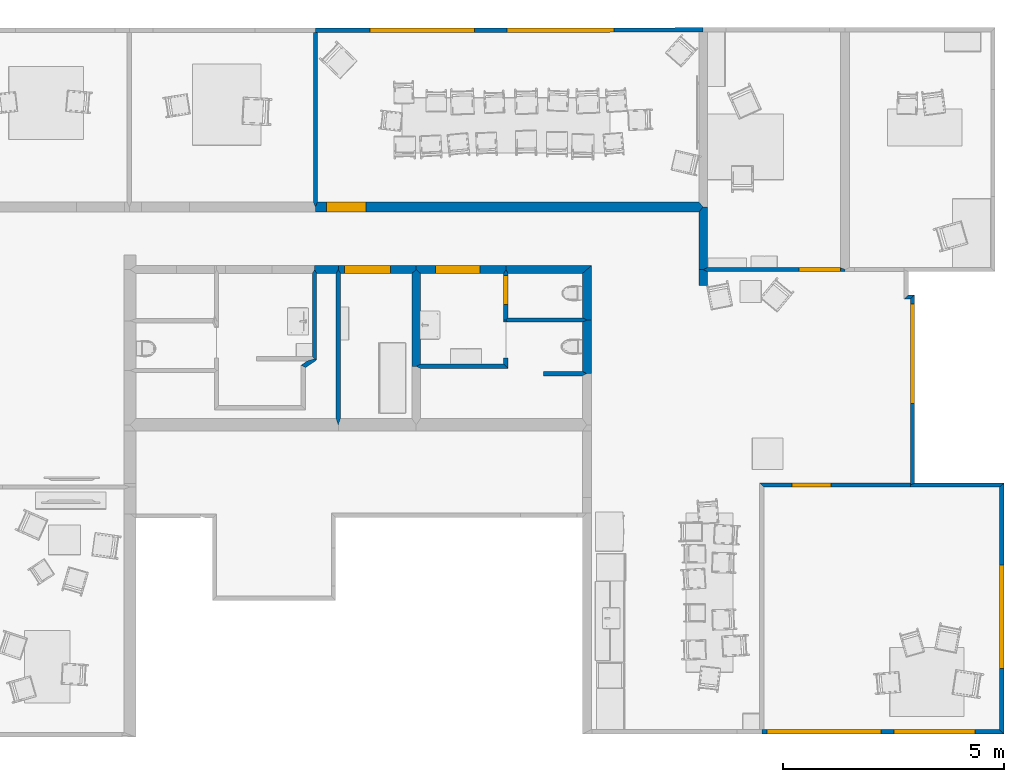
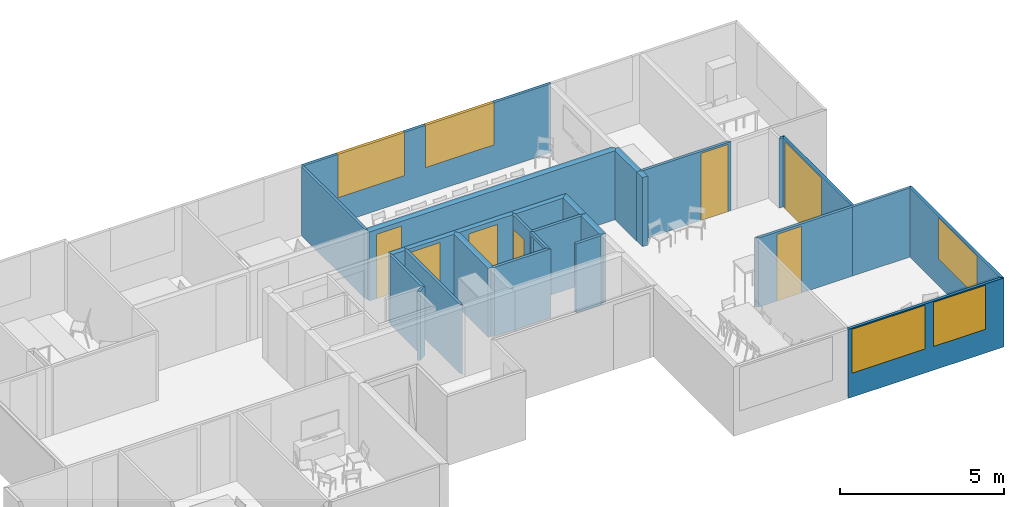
# One storey, part 4 of 26: 27 walls, 7 doors, 5 windows, 13 openings.
"""IFC2X3 building model written with IfcOpenShell, lengths in metres."""

from ifc_helpers import new_model, si_unit, direction, frame, origin_with_axes, place, context, subcontext, project, spatial, polyline, outline, extrude, type_object, element, fill, save


model = new_model("IFC2X3")

# Units and contexts
model_context = context("Model", 3, precision=1e-05, world=origin_with_axes(), true_north=direction((0.996, -0.093, 0.0)))
body_context = subcontext(model_context, "Body", "Model", "MODEL_VIEW")
ifc_project = project(units=[si_unit("AREAUNIT", "SQUARE_METRE"), si_unit("LENGTHUNIT", "METRE")], contexts=[model_context])

# Site, building, storey
site_placement = place(None, origin_with_axes())
site = spatial("IfcSite", under=ifc_project, at=site_placement, Name="Site", CompositionType="ELEMENT")
building_placement = place(site_placement, origin_with_axes())
building = spatial("IfcBuilding", under=site, at=building_placement, Name="Building", CompositionType="ELEMENT")
storey_placement = place(building_placement, frame((0.0, 0.0, 0.0500001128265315), z_axis=(0.0, 0.0, 1.0), x_axis=(1.0, 0.0, 0.0)))
storey = spatial("IfcBuildingStorey", under=building, at=storey_placement, Name="Story 0", CompositionType="ELEMENT", Elevation=0.0499999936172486)

# Wall, opening
wall_type_1 = type_object("IfcWallType", PredefinedType="STANDARD")
wall_1_placement = place(storey_placement, frame((18.5151849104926, 4.59033341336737, 0.0), z_axis=(0.0, 0.0, 1.0), x_axis=(1.0, 0.0, 0.0)))
wall_1 = element("IfcWallStandardCase", 1, at=wall_1_placement, inside=storey, type_object=wall_type_1, Name="Wall", context=body_context, shape_type="SweptSolid", body=[
    extrude(outline(polyline([(0.0, 0.0), (0.0499999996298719, 8.57389803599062e-09), (0.100000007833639, -0.0499999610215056), (0.100000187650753, -1.0986311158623), (1.71243240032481e-07, -0.998631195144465), (0.0, 0.0)])), origin_with_axes(), (0.0, 0.0, 1.0), 2.5729394),
])
opening_1_placement = place(wall_1_placement, frame((0.0, -0.049999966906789, 0.0), z_axis=(0.0, 0.0, 1.0), x_axis=(0.0, -1.00000000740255, 0.0)))
element("IfcOpeningElement", 2, at=opening_1_placement, cuts=wall_1, Name="OpeningElement", ObjectType="OPENING", context=body_context, shape_type="SweptSolid", body=[
    extrude(outline(polyline([(-2.19644113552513e-17, 0.0), (0.804700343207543, 0.0), (0.804700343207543, 2.45198288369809), (-2.19644113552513e-17, 2.45198288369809), (-2.19644113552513e-17, 0.0)])), frame((0.0, 0.0, 0.0), z_axis=(0.0, -1.0, 0.0), x_axis=(1.0, 0.0, 0.0)), (0.0, 0.0, -1.0), 0.100099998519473),
])

# Walls
wall_type_2 = type_object("IfcWallType", PredefinedType="STANDARD")
wall_2_placement = place(storey_placement, frame((16.6355931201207, 3.49170074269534, 0.0), z_axis=(0.0, 0.0, 1.0), x_axis=(1.0, 0.0, 0.0)))
element("IfcWallStandardCase", 3, at=wall_2_placement, inside=storey, type_object=wall_type_2, Name="Wall", context=body_context, shape_type="SweptSolid", body=[
    extrude(outline(polyline([(0.0, 0.0), (-0.0988196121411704, 0.049999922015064), (-4.51131576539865e-08, 0.0999999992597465), (1.87959196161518, 0.100001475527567), (1.97959197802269, 1.55480972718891e-06), (0.0, 0.0)])), origin_with_axes(), (0.0, 0.0, 1.0), 2.5729394),
])
wall_type_3 = type_object("IfcWallType", PredefinedType="STANDARD")
wall_3_placement = place(storey_placement, frame((20.2917804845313, 3.42640184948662, 0.0), z_axis=(0.0, 0.0, 1.0), x_axis=(1.0, 0.0, 0.0)))
element("IfcWallStandardCase", 4, at=wall_3_placement, inside=storey, type_object=wall_type_3, Name="Wall", context=body_context, shape_type="SweptSolid", body=[
    extrude(outline(polyline([(0.0, 0.0), (2.38406105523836e-07, 1.11393260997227), (0.101291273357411, 1.16393267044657), (0.202582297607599, 1.16393264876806), (0.202582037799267, -0.0500001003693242), (0.10129101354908, -0.0500000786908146), (0.0, 0.0)])), origin_with_axes(), (0.0, 0.0, 1.0), 2.5729394),
])
wall_type_4 = type_object("IfcWallType", PredefinedType="STANDARD")
wall_4_placement = place(storey_placement, frame((19.4136194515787, 3.32640253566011, 0.0), z_axis=(0.0, 0.0, 1.0), x_axis=(1.0, 0.0, 0.0)))
element("IfcWallStandardCase", 5, at=wall_4_placement, inside=storey, type_object=wall_type_4, Name="Wall", context=body_context, shape_type="SweptSolid", body=[
    extrude(outline(polyline([(0.0, 0.0), (7.80532545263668e-08, 0.0999999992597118), (0.878161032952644, 0.0999993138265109), (0.979452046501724, 0.0499992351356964), (0.878161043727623, -6.85433266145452e-07), (0.0, 0.0)])), origin_with_axes(), (0.0, 0.0, 1.0), 2.5729394),
])
wall_type_5 = type_object("IfcWallType", PredefinedType="STANDARD")
wall_5_placement = place(storey_placement, frame((18.6151849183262, 4.54033345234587, 0.0), z_axis=(0.0, 0.0, 1.0), x_axis=(1.0, 0.0, 0.0)))
element("IfcWallStandardCase", 6, at=wall_5_placement, inside=storey, type_object=wall_type_5, Name="Wall", context=body_context, shape_type="SweptSolid", body=[
    extrude(outline(polyline([(0.0, 0.0), (-0.0500000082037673, 0.0499999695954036), (8.39943226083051e-10, 0.099999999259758), (1.67659578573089, 0.100001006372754), (1.77788683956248, 0.050001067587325), (1.67659580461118, 1.0071130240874e-06), (0.0, 0.0)])), origin_with_axes(), (0.0, 0.0, 1.0), 2.5729394),
])
wall_type_6 = type_object("IfcWallType", PredefinedType="STANDARD")
wall_6_placement = place(storey_placement, frame((22.9254662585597, 5.36495264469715, 0.0), z_axis=(0.0, 0.0, 1.0), x_axis=(1.0, 0.0, 0.0)))
element("IfcWallStandardCase", 7, at=wall_6_placement, inside=storey, type_object=wall_type_6, Name="Wall", context=body_context, shape_type="SweptSolid", body=[
    extrude(outline(polyline([(0.0, 0.0), (1.45613221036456e-07, 0.363935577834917), (0.094740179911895, 0.363935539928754), (0.189480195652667, 0.31755322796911), (0.189480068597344, -7.58123270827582e-08), (0.0, 0.0)])), origin_with_axes(), (0.0, 0.0, 1.0), 2.5729394),
])

# Wall, opening, door
wall_type_7 = type_object("IfcWallType", PredefinedType="STANDARD")
wall_7_placement = place(storey_placement, frame((14.258046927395, 7.02928678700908, 0.0), z_axis=(0.0, 0.0, 1.0), x_axis=(1.0, 0.0, 0.0)))
wall_7 = element("IfcWallStandardCase", 8, at=wall_7_placement, inside=storey, type_object=wall_type_7, Name="Wall", context=body_context, shape_type="SweptSolid", body=[
    extrude(outline(polyline([(0.0, 0.0), (-4.16177954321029e-08, 0.114025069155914), (0.0463822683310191, 0.228050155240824), (8.66741881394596, 0.228053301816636), (8.76215888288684, 0.114028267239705), (8.66741889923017, 3.16350481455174e-06), (0.0, 0.0)])), origin_with_axes(), (0.0, 0.0, 1.0), 2.5729394),
])
opening_2_placement = place(wall_7_placement, frame((0.25352738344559, 0.0, 0.0), z_axis=(0.0, 0.0, 1.0), x_axis=(1.00000000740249, 0.0, 0.0)))
opening_2 = element("IfcOpeningElement", 9, at=opening_2_placement, cuts=wall_7, Name="OpeningElement", ObjectType="OPENING", context=body_context, shape_type="SweptSolid", body=[
    extrude(outline(polyline([(0.0, 0.0), (0.890961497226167, 0.0), (0.890961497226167, 2.40103436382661), (0.0, 2.40103436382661), (0.0, 0.0)])), frame((0.0, 0.0, 0.0), z_axis=(0.0, -1.0, 0.0), x_axis=(1.0, 0.0, 0.0)), (0.0, 0.0, -1.0), 0.228150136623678),
])
door_style_1 = type_object("IfcDoorStyle", Name="59cf702f-50ef-46f4-88ae-1def7f58e987", ConstructionType="NOTDEFINED", OperationType="NOTDEFINED", ParameterTakesPrecedence=False, Sizeable=False)
door_1_placement = place(opening_2_placement, origin_with_axes())
door_1 = element("IfcDoor", 10, at=door_1_placement, inside=storey, type_object=door_style_1, Name="Door", OverallHeight=2.4010349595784, OverallWidth=0.890961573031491, context=body_context, shape_type="SweptSolid", body=[
    extrude(outline(polyline([(0.0, 0.0), (-0.890961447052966, 0.0), (-0.890961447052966, 2.40103439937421), (0.0, 2.40103439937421), (0.0, 0.0)])), frame((0.0, 0.228050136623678, 0.0), z_axis=(0.0, 1.0, 0.0), x_axis=(-1.0, 0.0, 0.0)), (0.0, 0.0, -1.0), 0.228050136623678),
])
fill(opening_2, door_1)

# Wall
wall_type_8 = type_object("IfcWallType", PredefinedType="STANDARD")
wall_8_placement = place(storey_placement, frame((20.2917807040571, 4.64033445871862, 0.0), z_axis=(0.0, 0.0, 1.0), x_axis=(1.0, 0.0, 0.0)))
element("IfcWallStandardCase", 11, at=wall_8_placement, inside=storey, type_object=wall_type_8, Name="Wall", context=body_context, shape_type="SweptSolid", body=[
    extrude(outline(polyline([(0.0, 0.0), (-5.91764596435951e-07, 1.00022926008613), (0.202581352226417, 1.17687616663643), (0.202582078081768, -0.0499998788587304), (0.101291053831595, -0.0499999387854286), (0.0, 0.0)])), origin_with_axes(), (0.0, 0.0, 1.0), 2.5729394),
])

# Wall, opening, door
wall_type_9 = type_object("IfcWallType", PredefinedType="STANDARD")
wall_9_placement = place(storey_placement, frame((23.1149464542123, 5.68250587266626, 0.0), z_axis=(0.0, 0.0, 1.0), x_axis=(1.0, 0.0, 0.0)))
wall_9 = element("IfcWallStandardCase", 12, at=wall_9_placement, inside=storey, type_object=wall_type_9, Name="Wall", context=body_context, shape_type="SweptSolid", body=[
    extrude(outline(polyline([(0.0, 0.0), (-0.0947400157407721, 0.0463823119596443), (-2.04190442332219e-09, 0.0927646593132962), (3.01657455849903, 0.0927652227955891), (3.11411432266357, 0.0463829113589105), (3.11411433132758, 5.8170225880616e-07), (0.0, 0.0)])), origin_with_axes(), (0.0, 0.0, 1.0), 2.5729394),
])
opening_3_placement = place(wall_9_placement, frame((2.06755146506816, 0.0, 0.0), z_axis=(0.0, 0.0, 1.0), x_axis=(1.00000000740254, 0.0, 0.0)))
opening_3 = element("IfcOpeningElement", 13, at=opening_3_placement, cuts=wall_9, Name="OpeningElement", ObjectType="OPENING", context=body_context, shape_type="SweptSolid", body=[
    extrude(outline(polyline([(0.0, 0.0), (0.949021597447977, 0.0), (0.949021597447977, 2.50352182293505), (0.0, 2.50352182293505), (0.0, 0.0)])), frame((0.0, 0.0, 0.0), z_axis=(0.0, -1.0, 0.0), x_axis=(1.0, 0.0, 0.0)), (0.0, 0.0, -1.0), 0.0928646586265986),
])
door_style_2 = type_object("IfcDoorStyle", Name="da830938-7807-42d6-b61b-3fa6d8c951a8", ConstructionType="NOTDEFINED", OperationType="NOTDEFINED", ParameterTakesPrecedence=False, Sizeable=False)
door_2_placement = place(opening_3_placement, origin_with_axes())
door_2 = element("IfcDoor", 14, at=door_2_placement, inside=storey, type_object=door_style_2, Name="Door", OverallHeight=2.50352186, OverallWidth=0.994197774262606, context=body_context, shape_type="SweptSolid", body=[
    extrude(outline(polyline([(0.0, 0.0), (-0.949021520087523, 0.0), (-0.949021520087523, 2.50352186), (0.0, 2.50352186), (0.0, 0.0)])), frame((0.0, 0.0927646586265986, 0.0), z_axis=(0.0, 1.0, 0.0), x_axis=(-1.0, 0.0, 0.0)), (0.0, 0.0, -1.0), 0.0927646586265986),
])
fill(opening_3, door_2)

wall_type_10 = type_object("IfcWallType", PredefinedType="STANDARD")
wall_10_placement = place(storey_placement, frame((27.7038629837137, 5.06036271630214, 0.0), z_axis=(0.0, 0.0, 1.0), x_axis=(1.0, 0.0, 0.0)))
wall_10 = element("IfcWallStandardCase", 15, at=wall_10_placement, inside=storey, type_object=wall_type_10, Name="Wall", context=body_context, shape_type="SweptSolid", body=[
    extrude(outline(polyline([(0.0, 0.0), (0.0999999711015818, 0.0999992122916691), (0.100001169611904, -4.15631873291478), (1.18341267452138e-06, -4.20270108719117), (1.17035215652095e-06, -4.15631875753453), (0.0, 0.0)])), origin_with_axes(), (0.0, 0.0, 1.0), 2.5729394),
])
opening_4_placement = place(wall_10_placement, frame((0.0, -0.113515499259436, 0.0), z_axis=(0.0, 0.0, 1.0), x_axis=(0.0, -1.00000000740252, 0.0)))
opening_4 = element("IfcOpeningElement", 16, at=opening_4_placement, cuts=wall_10, Name="OpeningElement", ObjectType="OPENING", context=body_context, shape_type="SweptSolid", body=[
    extrude(outline(polyline([(3.76226624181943e-16, 0.0), (2.24195536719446, 0.0), (2.24195536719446, 2.50352186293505), (3.76226624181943e-16, 2.50352186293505), (3.76226624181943e-16, 0.0)])), frame((0.0, 0.0, 0.0), z_axis=(0.0, -1.0, 0.0), x_axis=(1.0, 0.0, 0.0)), (0.0, 0.0, -1.0), 0.100099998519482),
])
door_style_3 = type_object("IfcDoorStyle", Name="eb588fc6-349c-453b-8721-ccf8d8aa192a", ConstructionType="NOTDEFINED", OperationType="NOTDEFINED", ParameterTakesPrecedence=False, Sizeable=False)
door_3_placement = place(opening_4_placement, origin_with_axes())
door_3 = element("IfcDoor", 17, at=door_3_placement, inside=storey, type_object=door_style_3, Name="Door", OverallHeight=2.5035219, OverallWidth=2.24195607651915, context=body_context, shape_type="SweptSolid", body=[
    extrude(outline(polyline([(3.76695880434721e-16, 0.0), (-2.24195523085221, 0.0), (-2.24195523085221, 2.5035219), (3.76695880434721e-16, 2.5035219), (3.76695880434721e-16, 0.0)])), frame((0.0, 0.0999999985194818, 0.0), z_axis=(0.0, 1.0, 0.0), x_axis=(-1.0, 0.0, 0.0)), (0.0, 0.0, -1.0), 0.0999999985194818),
])
fill(opening_4, door_3)

wall_type_11 = type_object("IfcWallType", PredefinedType="STANDARD")
wall_11_placement = place(storey_placement, frame((14.8254874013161, 5.64056243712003, 0.0), z_axis=(0.0, 0.0, 1.0), x_axis=(1.0, 0.0, 0.0)))
wall_11 = element("IfcWallStandardCase", 18, at=wall_11_placement, inside=storey, type_object=wall_type_11, Name="Wall", context=body_context, shape_type="SweptSolid", body=[
    extrude(outline(polyline([(0.0, 0.0), (-0.0500000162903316, 0.088323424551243), (-0.0500000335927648, 0.176646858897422), (1.71128446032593, 0.176647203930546), (1.71128447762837, 0.0883237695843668), (1.61246493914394, 3.15879583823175e-07), (0.0, 0.0)])), origin_with_axes(), (0.0, 0.0, 1.0), 2.5729394),
])
opening_5_placement = place(wall_11_placement, frame((1.1256719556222, 0.176647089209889, 0.0), z_axis=(0.0, 0.0, 1.0), x_axis=(-1.00000000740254, 0.0, 0.0)))
opening_5 = element("IfcOpeningElement", 19, at=opening_5_placement, cuts=wall_11, Name="OpeningElement", ObjectType="OPENING", context=body_context, shape_type="SweptSolid", body=[
    extrude(outline(polyline([(0.0, 0.0), (1.03850236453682, 0.0), (1.03850236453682, 2.43175540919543), (0.0, 2.43175540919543), (0.0, 0.0)])), frame((0.0, 0.0, 0.0), z_axis=(0.0, -1.0, 0.0), x_axis=(1.0, 0.0, 0.0)), (0.0, 0.0, -1.0), 0.176746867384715),
])
door_style_4 = type_object("IfcDoorStyle", Name="9aebc637-f3fb-4654-b9ba-37ae9e66473f", ConstructionType="NOTDEFINED", OperationType="NOTDEFINED", ParameterTakesPrecedence=False, Sizeable=False)
door_4_placement = place(opening_5_placement, origin_with_axes())
door_4 = element("IfcDoor", 20, at=door_4_placement, inside=storey, type_object=door_style_4, Name="Door", OverallHeight=2.43175610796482, OverallWidth=1.03850250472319, context=body_context, shape_type="SweptSolid", body=[
    extrude(outline(polyline([(0.0, 0.0), (-1.03850229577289, 0.0), (-1.03850229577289, 2.43175544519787), (0.0, 2.43175544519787), (0.0, 0.0)])), frame((0.0, 0.176646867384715, 0.0), z_axis=(0.0, 1.0, 0.0), x_axis=(-1.0, 0.0, 0.0)), (0.0, 0.0, -1.0), 0.176646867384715),
])
fill(opening_5, door_4)

# Walls
wall_type_12 = type_object("IfcWallType", PredefinedType="STANDARD")
wall_12_placement = place(storey_placement, frame((22.9254664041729, 5.72888814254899, 0.0), z_axis=(0.0, 0.0, 1.0), x_axis=(1.0, 0.0, 0.0)))
element("IfcWallStandardCase", 21, at=wall_12_placement, inside=storey, type_object=wall_type_12, Name="Wall", context=body_context, shape_type="SweptSolid", body=[
    extrude(outline(polyline([(0.0, 0.0), (-5.775477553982e-07, 1.3004018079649), (0.0947394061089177, 1.41442691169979), (0.189479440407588, 1.41442695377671), (0.189480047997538, 0.0463823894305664), (0.0947400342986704, 4.20769143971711e-08), (0.0, 0.0)])), origin_with_axes(), (0.0, 0.0, 1.0), 2.5729394),
])
wall_type_13 = type_object("IfcWallType", PredefinedType="STANDARD")
wall_13_placement = place(storey_placement, frame((14.2889992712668, 5.64056199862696, 0.0), z_axis=(0.0, 0.0, 1.0), x_axis=(1.0, 0.0, 0.0)))
element("IfcWallStandardCase", 22, at=wall_13_placement, inside=storey, type_object=wall_type_13, Name="Wall", context=body_context, shape_type="SweptSolid", body=[
    extrude(outline(polyline([(0.0, 0.0), (-0.0500000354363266, 0.0883233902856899), (-0.0500001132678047, 0.176646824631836), (0.486488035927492, 0.17664729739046), (0.486488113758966, 0.0883238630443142), (0.436488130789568, 3.84637626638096e-07), (0.0, 0.0)])), origin_with_axes(), (0.0, 0.0, 1.0), 2.5729394),
])

# Wall, opening, door
wall_type_14 = type_object("IfcWallType", PredefinedType="STANDARD")
wall_14_placement = place(storey_placement, frame((16.635591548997, 5.6405628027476, 0.0), z_axis=(0.0, 0.0, 1.0), x_axis=(1.0, 0.0, 0.0)))
wall_14 = element("IfcWallStandardCase", 23, at=wall_14_placement, inside=storey, type_object=wall_type_14, Name="Wall", context=body_context, shape_type="SweptSolid", body=[
    extrude(outline(polyline([(0.0, 0.0), (-0.0988196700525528, 0.0883234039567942), (-0.0988196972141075, 0.176646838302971), (1.92959354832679, 0.176647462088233), (1.92959357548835, 0.0883240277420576), (1.87959355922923, 5.78019674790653e-07), (0.0, 0.0)])), origin_with_axes(), (0.0, 0.0, 1.0), 2.5729394),
])
opening_6_placement = place(wall_14_placement, frame((1.34609444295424, 0.176647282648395, 0.0), z_axis=(0.0, 0.0, 1.0), x_axis=(-1.00000000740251, 0.0, 0.0)))
opening_6 = element("IfcOpeningElement", 24, at=opening_6_placement, cuts=wall_14, Name="OpeningElement", ObjectType="OPENING", context=body_context, shape_type="SweptSolid", body=[
    extrude(outline(polyline([(0.0, 0.0), (1.01151418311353, 0.0), (1.01151418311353, 2.39816939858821), (0.0, 2.39816939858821), (0.0, 0.0)])), frame((0.0, 0.0, 0.0), z_axis=(0.0, -1.0, 0.0), x_axis=(1.0, 0.0, 0.0)), (0.0, 0.0, -1.0), 0.176746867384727),
])
door_style_5 = type_object("IfcDoorStyle", Name="df6fa823-cd3e-48b1-9ca3-863fbce347a5", ConstructionType="NOTDEFINED", OperationType="NOTDEFINED", ParameterTakesPrecedence=False, Sizeable=False)
door_5_placement = place(opening_6_placement, origin_with_axes())
door_5 = element("IfcDoor", 25, at=door_5_placement, inside=storey, type_object=door_style_5, Name="Door", OverallHeight=2.39817009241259, OverallWidth=1.01151431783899, context=body_context, shape_type="SweptSolid", body=[
    extrude(outline(polyline([(0.0, 0.0), (-1.0115141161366, 0.0), (-1.0115141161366, 2.3981694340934), (0.0, 2.3981694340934), (0.0, 0.0)])), frame((0.0, 0.176646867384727, 0.0), z_axis=(0.0, 1.0, 0.0), x_axis=(-1.0, 0.0, 0.0)), (0.0, 0.0, -1.0), 0.176646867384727),
])
fill(opening_6, door_5)

# Walls
wall_type_15 = type_object("IfcWallType", PredefinedType="STANDARD")
wall_15_placement = place(storey_placement, frame((18.615185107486, 5.64056340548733, 0.0), z_axis=(0.0, 0.0, 1.0), x_axis=(1.0, 0.0, 0.0)))
element("IfcWallStandardCase", 26, at=wall_15_placement, inside=storey, type_object=wall_type_15, Name="Wall", context=body_context, shape_type="SweptSolid", body=[
    extrude(outline(polyline([(0.0, 0.0), (-0.0499999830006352, 0.0883234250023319), (-0.0499999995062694, 0.176646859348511), (1.87917694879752, 0.17664721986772), (1.6765950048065, 3.13317422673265e-07), (0.0, 0.0)])), origin_with_axes(), (0.0, 0.0, 1.0), 2.5729394),
])
wall_type_16 = type_object("IfcWallType", PredefinedType="STANDARD")
wall_16_placement = place(storey_placement, frame((27.5582985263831, 5.06036386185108, 0.0), z_axis=(0.0, 0.0, 1.0), x_axis=(1.0, 0.0, 0.0)))
element("IfcWallStandardCase", 27, at=wall_16_placement, inside=storey, type_object=wall_type_16, Name="Wall", context=body_context, shape_type="SweptSolid", body=[
    extrude(outline(polyline([(0.0, 0.0), (0.0999997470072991, 0.0999992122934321), (0.245564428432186, 0.0999980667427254), (0.145564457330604, -1.145548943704e-06), (0.0, 0.0)])), origin_with_axes(), (0.0, 0.0, 1.0), 2.5729394),
])

# Wall, opening, door
wall_type_17 = type_object("IfcWallType", PredefinedType="STANDARD")
wall_17_placement = place(storey_placement, frame((24.3933050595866, 0.811278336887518, 0.0), z_axis=(0.0, 0.0, 1.0), x_axis=(1.0, 0.0, 0.0)))
wall_17 = element("IfcWallStandardCase", 28, at=wall_17_placement, inside=storey, type_object=wall_type_17, Name="Wall", context=body_context, shape_type="SweptSolid", body=[
    extrude(outline(polyline([(0.0, 0.0), (-0.0927646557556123, 0.0927646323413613), (3.31055909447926, 0.0927656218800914), (3.31055910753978, 0.0463832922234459), (3.31055912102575, 9.62566796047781e-07), (0.0, 0.0)])), origin_with_axes(), (0.0, 0.0, 1.0), 2.5729394),
])
opening_7_placement = place(wall_17_placement, frame((0.64069133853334, 0.0, 0.0), z_axis=(0.0, 0.0, 1.0), x_axis=(1.00000000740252, 0.0, 0.0)))
opening_7 = element("IfcOpeningElement", 29, at=opening_7_placement, cuts=wall_17, Name="OpeningElement", ObjectType="OPENING", context=body_context, shape_type="SweptSolid", body=[
    extrude(outline(polyline([(0.0, 0.0), (0.87662176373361, 0.0), (0.87662176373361, 2.48644310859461), (0.0, 2.48644310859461), (0.0, 0.0)])), frame((0.0, 0.0, 0.0), z_axis=(0.0, -1.0, 0.0), x_axis=(1.0, 0.0, 0.0)), (0.0, 0.0, -1.0), 0.0928646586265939),
])
door_style_6 = type_object("IfcDoorStyle", Name="3bb2d5c1-1d2c-466b-8d17-a8a767665c3a", ConstructionType="NOTDEFINED", OperationType="NOTDEFINED", ParameterTakesPrecedence=False, Sizeable=False)
door_6_placement = place(opening_7_placement, origin_with_axes())
door_6 = element("IfcDoor", 30, at=door_6_placement, inside=storey, type_object=door_style_6, Name="Door", OverallHeight=2.4864431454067, OverallWidth=0.876621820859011, context=body_context, shape_type="SweptSolid", body=[
    extrude(outline(polyline([(0.0, 0.0), (-0.876621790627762, 0.0), (-0.876621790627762, 2.4864431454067), (0.0, 2.4864431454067), (0.0, 0.0)])), frame((0.0, 0.0927646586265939, 0.0), z_axis=(0.0, 1.0, 0.0), x_axis=(-1.0, 0.0, 0.0)), (0.0, 0.0, -1.0), 0.0927646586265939),
])
fill(opening_7, door_6)

# Walls
wall_type_18 = type_object("IfcWallType", PredefinedType="STANDARD")
wall_18_placement = place(storey_placement, frame((14.7254874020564, 5.64056238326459, 0.0), z_axis=(0.0, 0.0, 1.0), x_axis=(1.0, 0.0, 0.0)))
element("IfcWallStandardCase", 31, at=wall_18_placement, inside=storey, type_object=wall_type_18, Name="Wall", context=body_context, shape_type="SweptSolid", body=[
    extrude(outline(polyline([(0.0, 0.0), (0.049999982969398, 0.0883234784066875), (0.0999999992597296, 5.38554445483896e-08), (0.100000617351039, -3.27673635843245), (0.050000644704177, -3.41978350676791), (6.18091304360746e-07, -3.27673637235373), (0.0, 0.0)])), origin_with_axes(), (0.0, 0.0, 1.0), 2.5729394),
])
wall_type_19 = type_object("IfcWallType", PredefinedType="STANDARD")
wall_19_placement = place(storey_placement, frame((16.437953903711, 3.5417005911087, 0.0), z_axis=(0.0, 0.0, 1.0), x_axis=(1.0, 0.0, 0.0)))
element("IfcWallStandardCase", 32, at=wall_19_placement, inside=storey, type_object=wall_type_19, Name="Wall", context=body_context, shape_type="SweptSolid", body=[
    extrude(outline(polyline([(0.0, 0.0), (-1.56325097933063e-06, 2.09886216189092), (0.0988179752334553, 2.1871856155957), (0.197637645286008, 2.09886221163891), (0.197639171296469, 0.0500001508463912), (0.0988196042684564, 7.36017087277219e-08), (0.0, 0.0)])), origin_with_axes(), (0.0, 0.0, 1.0), 2.5729394),
])

# Wall, opening, door
wall_type_20 = type_object("IfcWallType", PredefinedType="STANDARD")
wall_20_placement = place(storey_placement, frame((18.5151849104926, 4.5903334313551, 0.0), z_axis=(0.0, 0.0, 1.0), x_axis=(1.0, 0.0, 0.0)))
wall_20 = element("IfcWallStandardCase", 33, at=wall_20_placement, inside=storey, type_object=wall_type_20, Name="Wall", context=body_context, shape_type="SweptSolid", body=[
    extrude(outline(polyline([(0.0, 0.0), (1.97733676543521e-07, 1.05022994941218), (0.0500002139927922, 1.13855339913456), (0.100000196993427, 1.05022997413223), (0.100000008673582, 0.0500000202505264), (0.0499999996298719, -9.41382793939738e-09), (0.0, 0.0)])), origin_with_axes(), (0.0, 0.0, 1.0), 2.5729394),
])
opening_8_placement = place(wall_20_placement, frame((0.0, 1.00794408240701, 0.0), z_axis=(0.0, 0.0, 1.0), x_axis=(0.0, -1.00000000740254, 0.0)))
opening_8 = element("IfcOpeningElement", 34, at=opening_8_placement, cuts=wall_20, Name="OpeningElement", ObjectType="OPENING", context=body_context, shape_type="SweptSolid", body=[
    extrude(outline(polyline([(-2.49185234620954e-16, 0.0), (0.657400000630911, 0.0), (0.657400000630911, 2.05067081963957), (-2.49185234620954e-16, 2.05067081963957), (-2.49185234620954e-16, 0.0)])), frame((0.0, 0.0, 0.0), z_axis=(0.0, -1.0, 0.0), x_axis=(1.0, 0.0, 0.0)), (0.0, 0.0, -1.0), 0.100099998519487),
])
door_style_7 = type_object("IfcDoorStyle", Name="64f97b0b-80d8-4a7f-bff1-901529c8cbd9", ConstructionType="NOTDEFINED", OperationType="NOTDEFINED", ParameterTakesPrecedence=False, Sizeable=False)
door_7_placement = place(opening_8_placement, origin_with_axes())
door_7 = element("IfcDoor", 35, at=door_7_placement, inside=storey, type_object=door_style_7, Name="Door", OverallHeight=2.05067085, OverallWidth=0.657399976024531, context=body_context, shape_type="SweptSolid", body=[
    extrude(outline(polyline([(-4.34173842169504e-16, 0.0), (-0.657400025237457, 0.0), (-0.657400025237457, 2.05067085), (-4.34173842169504e-16, 2.05067085), (-4.34173842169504e-16, 0.0)])), frame((0.0, 0.0999999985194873, 0.0), z_axis=(0.0, 1.0, 0.0), x_axis=(-1.0, 0.0, 0.0)), (0.0, 0.0, -1.0), 0.0999999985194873),
])
fill(opening_8, door_7)

# Wall
wall_type_21 = type_object("IfcWallType", PredefinedType="STANDARD")
wall_21_placement = place(storey_placement, frame((27.7038641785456, 0.811279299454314, 0.0), z_axis=(0.0, 0.0, 1.0), x_axis=(1.0, 0.0, 0.0)))
element("IfcWallStandardCase", 36, at=wall_21_placement, inside=storey, type_object=wall_type_21, Name="Wall", context=body_context, shape_type="SweptSolid", body=[
    extrude(outline(polyline([(0.0, 0.0), (-1.14192069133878e-08, 0.0463823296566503), (0.0999999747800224, 0.0927646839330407), (2.11718423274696, 0.0927651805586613), (2.01718423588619, 4.96625610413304e-07), (0.0, 0.0)])), origin_with_axes(), (0.0, 0.0, 1.0), 2.5729394),
])

# Wall, opening, window
wall_type_22 = type_object("IfcWallType", PredefinedType="STANDARD")
wall_22_placement = place(storey_placement, frame((29.7210484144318, 0.811279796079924, 0.0), z_axis=(0.0, 0.0, 1.0), x_axis=(1.0, 0.0, 0.0)))
wall_22 = element("IfcWallStandardCase", 37, at=wall_22_placement, inside=storey, type_object=wall_type_22, Name="Wall", context=body_context, shape_type="SweptSolid", body=[
    extrude(outline(polyline([(0.0, 0.0), (0.0999999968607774, 0.0927646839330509), (0.100000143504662, -5.57779108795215), (1.4165886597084e-07, -5.47779111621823), (0.0, 0.0)])), origin_with_axes(), (0.0, 0.0, 1.0), 2.5729394),
])
opening_9_placement = place(wall_22_placement, frame((0.0, -1.75345648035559, 0.993322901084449), z_axis=(0.0, 0.0, 1.0), x_axis=(0.0, -1.00000000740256, 0.0)))
opening_9 = element("IfcOpeningElement", 38, at=opening_9_placement, cuts=wall_22, Name="OpeningElement", ObjectType="OPENING", context=body_context, shape_type="SweptSolid", body=[
    extrude(outline(polyline([(4.64063940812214e-17, 0.0), (2.33859154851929, 0.0), (2.33859154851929, 1.53574247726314), (4.64063940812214e-17, 1.53574247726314), (4.64063940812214e-17, 0.0)])), frame((0.0, 0.0, 0.0), z_axis=(0.0, -1.0, 0.0), x_axis=(1.0, 0.0, 0.0)), (0.0, 0.0, -1.0), 0.100099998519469),
])
window_style_1 = type_object("IfcWindowStyle", Name="9b22a495-e5c5-4460-b6af-3e65206283d3", ConstructionType="ALUMINIUM", OperationType="SINGLE_PANEL", ParameterTakesPrecedence=True, Sizeable=True)
window_1_placement = place(opening_9_placement, origin_with_axes())
window_1 = element("IfcWindow", 39, at=window_1_placement, inside=storey, type_object=window_style_1, Name="Window", OverallHeight=1.5, OverallWidth=0.5, context=body_context, shape_type="SweptSolid", body=[
    extrude(outline(polyline([(-4.29657462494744e-18, 0.0), (-2.33859135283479, 0.0), (-2.33859135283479, 1.5357425), (-4.29657462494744e-18, 1.5357425), (-4.29657462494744e-18, 0.0)])), frame((0.0, 0.0999999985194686, 0.0), z_axis=(0.0, 1.0, 0.0), x_axis=(-1.0, 0.0, 0.0)), (0.0, 0.0, -1.0), 0.0999999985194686),
])
fill(opening_9, window_1)

# Wall, openings, windows
wall_type_23 = type_object("IfcWallType", PredefinedType="STANDARD")
wall_23_placement = place(storey_placement, frame((24.3469225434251, -4.7665127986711, 0.0), z_axis=(0.0, 0.0, 1.0), x_axis=(1.0, 0.0, 0.0)))
wall_23 = element("IfcWallStandardCase", 40, at=wall_23_placement, inside=storey, type_object=wall_type_23, Name="Wall", context=body_context, shape_type="SweptSolid", body=[
    extrude(outline(polyline([(0.0, 0.0), (-2.35785400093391e-08, 0.0999999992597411), (0.0463823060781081, 0.100000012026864), (5.37412601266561, 0.100001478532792), (5.4741260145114, 1.50679887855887e-06), (0.0, 0.0)])), origin_with_axes(), (0.0, 0.0, 1.0), 2.5729394),
])
opening_10_placement = place(wall_23_placement, frame((4.82009358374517, 0.100001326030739, 0.887529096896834), z_axis=(0.0, 0.0, 1.0), x_axis=(-1.00000000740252, 0.0, 0.0)))
opening_10 = element("IfcOpeningElement", 41, at=opening_10_placement, cuts=wall_23, Name="OpeningElement", ObjectType="OPENING", context=body_context, shape_type="SweptSolid", body=[
    extrude(outline(polyline([(0.0, 0.0), (1.83275392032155, 0.0), (1.83275392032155, 1.64153637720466), (0.0, 1.64153637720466), (0.0, 0.0)])), frame((0.0, 0.0, 0.0), z_axis=(0.0, -1.0, 0.0), x_axis=(1.0, 0.0, 0.0)), (0.0, 0.0, -1.0), 0.100099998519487),
])
opening_11_placement = place(wall_23_placement, frame((2.6979600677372, 0.100000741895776, 0.898242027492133), z_axis=(0.0, 0.0, 1.0), x_axis=(-1.00000000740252, 0.0, 0.0)))
opening_11 = element("IfcOpeningElement", 42, at=opening_11_placement, cuts=wall_23, Name="OpeningElement", ObjectType="OPENING", context=body_context, shape_type="SweptSolid", body=[
    extrude(outline(polyline([(0.0, 0.0), (2.58300454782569, 0.0), (2.58300454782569, 1.63082337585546), (0.0, 1.63082337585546), (0.0, 0.0)])), frame((0.0, 0.0, 0.0), z_axis=(0.0, -1.0, 0.0), x_axis=(1.0, 0.0, 0.0)), (0.0, 0.0, -1.0), 0.100099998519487),
])
window_style_2 = type_object("IfcWindowStyle", Name="6e843044-fd3e-4840-9883-a346f21175f8", ConstructionType="ALUMINIUM", OperationType="SINGLE_PANEL", ParameterTakesPrecedence=True, Sizeable=True)
window_2_placement = place(opening_10_placement, origin_with_axes())
window_2 = element("IfcWindow", 43, at=window_2_placement, inside=storey, type_object=window_style_2, Name="Window", OverallHeight=1.5, OverallWidth=0.5, context=body_context, shape_type="SweptSolid", body=[
    extrude(outline(polyline([(-3.5527136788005e-15, 0.0), (-1.83275397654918, 0.0), (-1.83275397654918, 1.64153640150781), (-3.5527136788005e-15, 1.64153640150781), (-3.5527136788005e-15, 0.0)])), frame((0.0, 0.0999999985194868, 0.0), z_axis=(0.0, 1.0, 0.0), x_axis=(-1.0, 0.0, 0.0)), (0.0, 0.0, -1.0), 0.0999999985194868),
])
fill(opening_10, window_2)
window_style_3 = type_object("IfcWindowStyle", Name="fb734828-af44-4dc5-b624-d1d4debb0682", ConstructionType="ALUMINIUM", OperationType="SINGLE_PANEL", ParameterTakesPrecedence=True, Sizeable=True)
window_3_placement = place(opening_11_placement, origin_with_axes())
window_3 = element("IfcWindow", 44, at=window_3_placement, inside=storey, type_object=window_style_3, Name="Window", OverallHeight=1.5, OverallWidth=0.5, context=body_context, shape_type="SweptSolid", body=[
    extrude(outline(polyline([(0.0, 0.0), (-2.58300462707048, 0.0), (-2.58300462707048, 1.6308234), (0.0, 1.6308234), (0.0, 0.0)])), frame((0.0, 0.0999999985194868, 0.0), z_axis=(0.0, 1.0, 0.0), x_axis=(-1.0, 0.0, 0.0)), (0.0, 0.0, -1.0), 0.0999999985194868),
])
fill(opening_11, window_3)

# Walls
wall_type_24 = type_object("IfcWallType", PredefinedType="STANDARD")
wall_24_placement = place(storey_placement, frame((14.1889992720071, 5.64056194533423, 0.0), z_axis=(0.0, 0.0, 1.0), x_axis=(1.0, 0.0, 0.0)))
element("IfcWallStandardCase", 45, at=wall_24_placement, inside=storey, type_object=wall_type_24, Name="Wall", context=body_context, shape_type="SweptSolid", body=[
    extrude(outline(polyline([(0.0, 0.0), (0.0499999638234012, 0.0883234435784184), (0.0999999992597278, 5.32927284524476e-08), (0.100000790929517, -1.95280318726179), (0.0500007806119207, -1.92643988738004), (7.60711962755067e-07, -1.87643989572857), (0.0, 0.0)])), origin_with_axes(), (0.0, 0.0, 1.0), 2.5729394),
])
wall_type_25 = type_object("IfcWallType", PredefinedType="STANDARD")
wall_25_placement = place(storey_placement, frame((14.0366241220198, 3.51496840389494, 0.0), z_axis=(0.0, 0.0, 1.0), x_axis=(1.0, 0.0, 0.0)))
element("IfcWallStandardCase", 46, at=wall_25_placement, inside=storey, type_object=wall_type_25, Name="Wall", context=body_context, shape_type="SweptSolid", body=[
    extrude(outline(polyline([(0.0, 0.0), (-0.0999999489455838, 0.0527266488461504), (0.0408403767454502, 0.149153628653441), (0.202375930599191, 0.199153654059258), (0.252375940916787, 0.172790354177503), (0.0, 0.0)])), origin_with_axes(), (0.0, 0.0, 1.0), 2.5729394),
])
wall_type_26 = type_object("IfcWallType", PredefinedType="STANDARD")
wall_26_placement = place(storey_placement, frame((14.2116638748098, 11.0852191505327, 0.0), z_axis=(0.0, 0.0, 1.0), x_axis=(1.0, 0.0, 0.0)))
element("IfcWallStandardCase", 47, at=wall_26_placement, inside=storey, type_object=wall_type_26, Name="Wall", context=body_context, shape_type="SweptSolid", body=[
    extrude(outline(polyline([(0.0, 0.0), (0.0463823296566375, 1.56423460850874e-08), (0.0927646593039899, 5.3728595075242e-05), (0.0927653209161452, -3.82788220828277), (0.0463830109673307, -3.94190729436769), (6.61602831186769e-07, -3.82788224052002), (0.0, 0.0)])), origin_with_axes(), (0.0, 0.0, 1.0), 2.5729394),
])

# Wall, openings, windows
wall_type_27 = type_object("IfcWallType", PredefinedType="STANDARD")
wall_27_placement = place(storey_placement, frame((14.3044285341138, 11.0852728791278, 0.0), z_axis=(0.0, 0.0, 1.0), x_axis=(1.0, 0.0, 0.0)))
wall_27 = element("IfcWallStandardCase", 48, at=wall_27_placement, inside=storey, type_object=wall_type_27, Name="Wall", context=body_context, shape_type="SweptSolid", body=[
    extrude(outline(polyline([(0.0, 0.0), (-0.0463823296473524, -5.37129527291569e-05), (-0.0464981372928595, 0.0999462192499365), (8.71566026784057, 0.110093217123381), (8.71577607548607, 0.0100932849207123), (8.62103604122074, 0.00998357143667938), (0.0, 0.0)])), origin_with_axes(), (0.0, 0.0, 1.0), 2.5729394),
])
opening_12_placement = place(wall_27_placement, frame((1.18994754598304, 0.00137801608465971, 0.9626063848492), z_axis=(0.0, 0.0, 1.0), x_axis=(0.999999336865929, 0.00115804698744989, 0.0)))
opening_12 = element("IfcOpeningElement", 49, at=opening_12_placement, cuts=wall_27, Name="OpeningElement", ObjectType="OPENING", context=body_context, shape_type="SweptSolid", body=[
    extrude(outline(polyline([(1.77635683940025e-15, 0.0), (2.35906108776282, 0.0), (2.35906108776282, 1.61033285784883), (1.77635683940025e-15, 1.61033285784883), (1.77635683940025e-15, 0.0)])), frame((0.0, 0.0, 0.0), z_axis=(0.0, -1.0, 0.0), x_axis=(1.0, 0.0, 0.0)), (0.0, 0.0, -1.0), 0.100099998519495),
])
opening_13_placement = place(wall_27_placement, frame((4.28379242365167, 0.00496083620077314, 1.00129458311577), z_axis=(0.0, 0.0, 1.0), x_axis=(0.999999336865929, 0.00115804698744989, 0.0)))
opening_13 = element("IfcOpeningElement", 50, at=opening_13_placement, cuts=wall_27, Name="OpeningElement", ObjectType="OPENING", context=body_context, shape_type="SweptSolid", body=[
    extrude(outline(polyline([(0.0, 0.0), (2.41707098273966, 0.0), (2.41707098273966, 1.57164465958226), (0.0, 1.57164465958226), (0.0, 0.0)])), frame((0.0, 0.0, 0.0), z_axis=(0.0, -1.0, 0.0), x_axis=(1.0, 0.0, 0.0)), (0.0, 0.0, -1.0), 0.100099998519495),
])
window_style_4 = type_object("IfcWindowStyle", Name="ed4b7fde-6acd-44c2-9248-04da0e82f845", ConstructionType="ALUMINIUM", OperationType="SINGLE_PANEL", ParameterTakesPrecedence=True, Sizeable=True)
window_4_placement = place(opening_12_placement, origin_with_axes())
window_4 = element("IfcWindow", 51, at=window_4_placement, inside=storey, type_object=window_style_4, Name="Window", OverallHeight=1.5, OverallWidth=0.5, context=body_context, shape_type="SweptSolid", body=[
    extrude(outline(polyline([(0.0, 0.0), (-2.35906088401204, 0.0), (-2.35906088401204, 1.61033288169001), (0.0, 1.61033288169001), (0.0, 0.0)])), frame((0.0, 0.0999999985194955, 0.0), z_axis=(0.0, 1.0, 0.0), x_axis=(-1.0, 0.0, 0.0)), (0.0, 0.0, -1.0), 0.0999999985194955),
])
fill(opening_12, window_4)
window_style_5 = type_object("IfcWindowStyle", Name="2d10bb64-801f-4191-b4a3-c2bc002cd90d", ConstructionType="ALUMINIUM", OperationType="SINGLE_PANEL", ParameterTakesPrecedence=True, Sizeable=True)
window_5_placement = place(opening_13_placement, origin_with_axes())
window_5 = element("IfcWindow", 52, at=window_5_placement, inside=storey, type_object=window_style_5, Name="Window", OverallHeight=1.5, OverallWidth=0.5, context=body_context, shape_type="SweptSolid", body=[
    extrude(outline(polyline([(0.0, 0.0), (-2.4170707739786, 0.0), (-2.4170707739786, 1.57164468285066), (0.0, 1.57164468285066), (0.0, 0.0)])), frame((0.0, 0.0999999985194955, 0.0), z_axis=(0.0, 1.0, 0.0), x_axis=(-1.0, 0.0, 0.0)), (0.0, 0.0, -1.0), 0.0999999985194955),
])
fill(opening_13, window_5)

save(model, "model.ifc")
